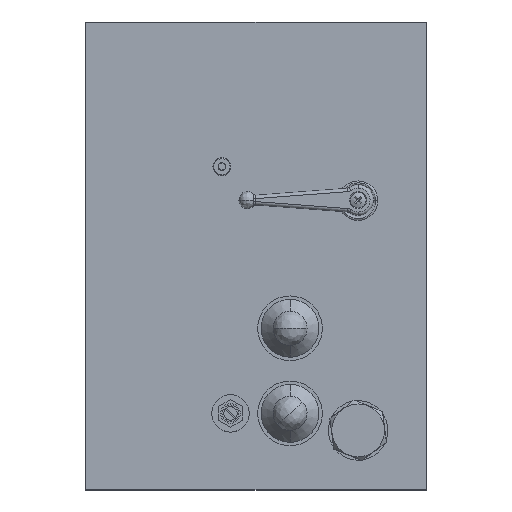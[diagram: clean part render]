
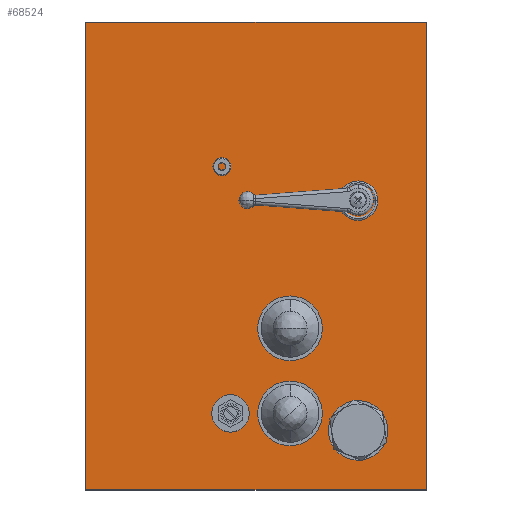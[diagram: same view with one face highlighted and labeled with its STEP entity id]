
A CAD part, top view. The second image highlights one B-rep face of the part: STEP entity #68524.
In plain terms, the highlighted planar face has unit normal (0, 0, 1).
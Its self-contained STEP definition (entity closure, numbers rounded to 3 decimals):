
#6911 = EDGE_LOOP ( 'NONE', ( #89434, #89436, #89437, #89438 ) ) ;
#11772 = LINE ( 'NONE', #12294, #11781 ) ;
#11775 = LINE ( 'NONE', #12271, #11777 ) ;
#11777 = VECTOR ( 'NONE', #12293, 39.37 ) ;
#11781 = VECTOR ( 'NONE', #12297, 39.37 ) ;
#11801 = LINE ( 'NONE', #12342, #11802 ) ;
#11802 = VECTOR ( 'NONE', #12343, 39.37 ) ;
#12271 = CARTESIAN_POINT ( 'NONE',  ( 4.744, 6.435, 0.022 ) ) ;
#12293 = DIRECTION ( 'NONE',  ( 0., -1., 0. ) ) ;
#12294 = CARTESIAN_POINT ( 'NONE',  ( -3.13, 6.435, 0.022 ) ) ;
#12297 = DIRECTION ( 'NONE',  ( 1., 0., 0. ) ) ;
#12342 = CARTESIAN_POINT ( 'NONE',  ( -3.13, 6.435, 0.022 ) ) ;
#12343 = DIRECTION ( 'NONE',  ( 0., 1., 0. ) ) ;
#14643 = LINE ( 'NONE', #23394, #24344 ) ;
#23394 = CARTESIAN_POINT ( 'NONE',  ( -3.13, -4.392, 0.022 ) ) ;
#23396 = DIRECTION ( 'NONE',  ( -1., 0., 0. ) ) ;
#24344 = VECTOR ( 'NONE', #23396, 39.37 ) ;
#42271 = CARTESIAN_POINT ( 'NONE',  ( -3.13, -4.392, 0.022 ) ) ;
#42349 = CARTESIAN_POINT ( 'NONE',  ( -3.13, 6.435, 0.022 ) ) ;
#42434 = CARTESIAN_POINT ( 'NONE',  ( 4.744, -4.392, 0.022 ) ) ;
#42816 = CARTESIAN_POINT ( 'NONE',  ( 4.744, 6.435, 0.022 ) ) ;
#52216 = AXIS2_PLACEMENT_3D ( 'NONE', #59192, #59197, #59198 ) ;
#58638 = FACE_OUTER_BOUND ( 'NONE', #6911, .T. ) ;
#59192 = CARTESIAN_POINT ( 'NONE',  ( -3.13, 6.435, 0.022 ) ) ;
#59194 = PLANE ( 'NONE',  #52216 ) ;
#59197 = DIRECTION ( 'NONE',  ( 0., 0., -1. ) ) ;
#59198 = DIRECTION ( 'NONE',  ( -1., 0., 0. ) ) ;
#68524 = ADVANCED_FACE ( 'NONE', ( #58638 ), #59194, .F. ) ;
#80251 = EDGE_CURVE ( 'NONE', #99360, #98889, #11775, .T. ) ;
#80253 = EDGE_CURVE ( 'NONE', #98828, #99360, #11772, .T. ) ;
#80269 = EDGE_CURVE ( 'NONE', #98752, #98828, #11801, .T. ) ;
#82841 = EDGE_CURVE ( 'NONE', #98889, #98752, #14643, .T. ) ;
#89434 = ORIENTED_EDGE ( 'NONE', *, *, #82841, .F. ) ;
#89436 = ORIENTED_EDGE ( 'NONE', *, *, #80251, .F. ) ;
#89437 = ORIENTED_EDGE ( 'NONE', *, *, #80253, .F. ) ;
#89438 = ORIENTED_EDGE ( 'NONE', *, *, #80269, .F. ) ;
#98752 = VERTEX_POINT ( 'NONE', #42271 ) ;
#98828 = VERTEX_POINT ( 'NONE', #42349 ) ;
#98889 = VERTEX_POINT ( 'NONE', #42434 ) ;
#99360 = VERTEX_POINT ( 'NONE', #42816 ) ;
